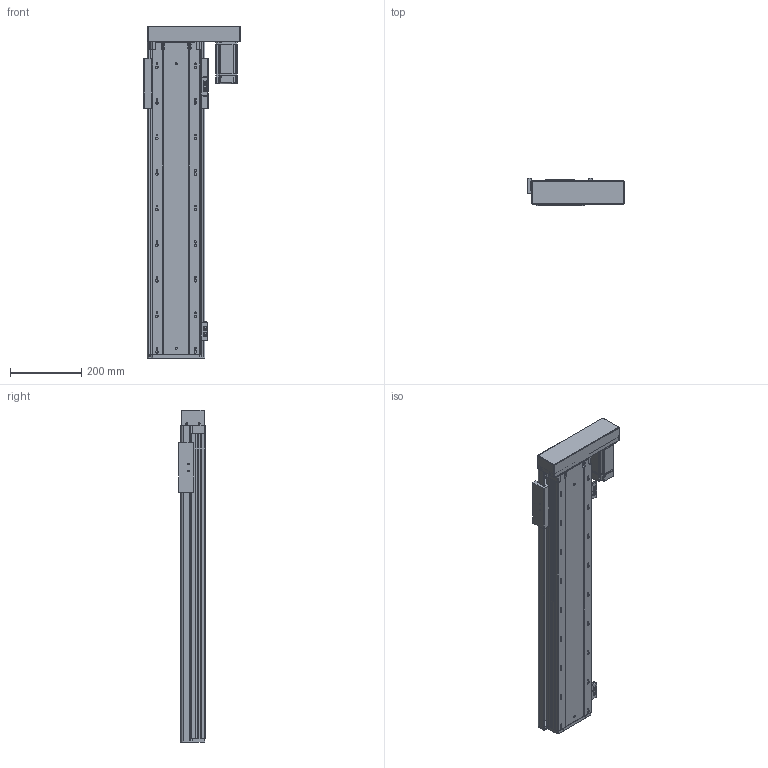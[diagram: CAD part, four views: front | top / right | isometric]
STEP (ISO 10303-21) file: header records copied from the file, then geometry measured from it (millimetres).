
FILE_DESCRIPTION (( 'STEP AP203' ), '1' );
FILE_NAME ('RY140FB-L2010-300-RK.SLDASM_650.step', '2021-02-23T02:41:05', ( '盈信电脑' ), ( '东莞市道滘镇水果街19号' ), 'SwSTEP 2.0', 'SolidWorks 2012', '' );
FILE_SCHEMA (( 'CONFIG_CONTROL_DESIGN' ));
Products named in the file (17): RY140直线电机感应器674光电安装座; RY140-674嫖萇耀輸; 覜茼ん674; RY140FB-300蛌殏奻裔啣-RK_650; RY140FB-L2010-300-RK.SLDASM_650; RY140FB-左右折电机安装板; RY140FB-酘衵殏萇儂欶; RY140FB-覜茼え; RY140FB-转折电机端支撑座(7002); RY140FB-20佪裝臏賑輸; 15; 侂狟400W侜督萇儂; 滅袉蝶18-24; RY140FB-綴裔啣; 滅袉蝶18-10; RY140FB-300蛌殏倰第菁釱-RK_650
Assembly tree (20 placements, depth 3):
  RY140FB-L2010-300-RK.SLDASM_650
    RY140FB-300蛌殏倰第菁釱-RK_650
    RY140FB-綴裔啣
    滅袉蝶18-24  x2
    滅袉蝶18-10
    RY140FB-转折电机端支撑座(7002)
    侂狟400W侜督萇儂
      15
    RY140FB-20佪裝臏賑輸
    RY140FB-300蛌殏奻裔啣-RK_650
    RY140-674嫖萇耀輸
      覜茼ん674
      RY140直线电机感应器674光电安装座
    RY140-674嫖萇耀輸
      覜茼ん674  x2
      RY140直线电机感应器674光电安装座
    RY140FB-覜茼え
    RY140FB-左右折电机安装板
    RY140FB-酘衵殏萇儂欶
Bounding box: 271.3 x 75 x 933.2 mm (x, y, z)
Volume: 3854531.8 mm3; surface area: 1274173.4 mm2
Topology: 17 solids, 17 shells, 1814 faces, 4979 edges, 3167 vertices
Faces by surface type: cylinder 889, plane 727, cone 170, bspline 28
Entity records: 54877 total; most frequent: CARTESIAN_POINT 11111, DIRECTION 8884, ORIENTED_EDGE 8666, EDGE_CURVE 4333, AXIS2_PLACEMENT_3D 3216, VERTEX_POINT 2835, LINE 2452, VECTOR 2452
